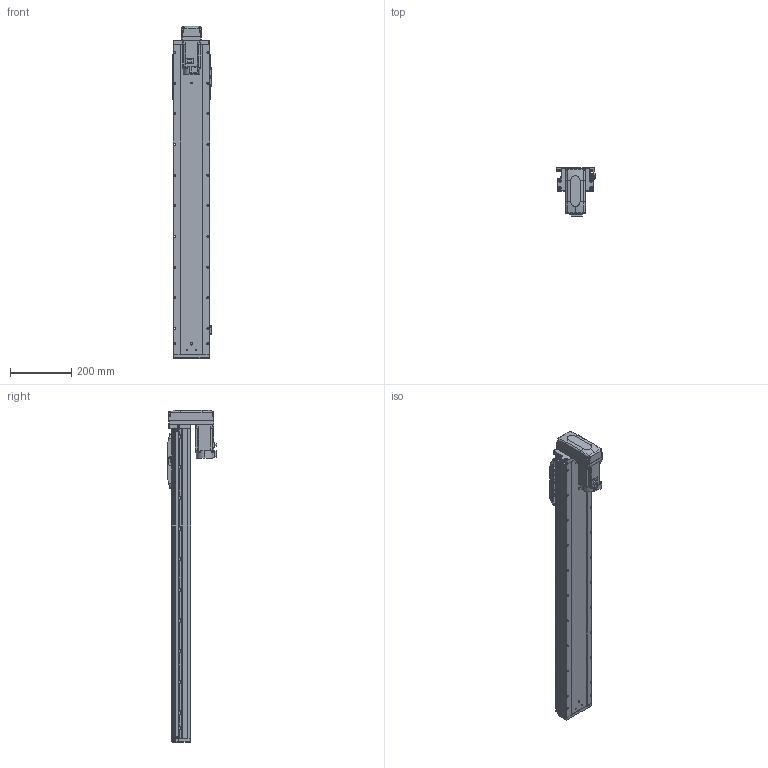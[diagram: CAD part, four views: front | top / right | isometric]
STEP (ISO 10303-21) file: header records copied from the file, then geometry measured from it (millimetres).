
FILE_DESCRIPTION (( 'STEP AP203' ), '1' );
FILE_NAME ('GTH12-800-BM-M40-C4.step', '2022-09-29T02:02:41', ( '微软用户' ), ( '微软中国' ), 'SwSTEP 2.0', 'SolidWorks 2020', '' );
FILE_SCHEMA (( 'CONFIG_CONTROL_DESIGN' ));
Length unit declared in the file: millimetre
Products named in the file (18): hg-kn43j_-s100_; GTH120-003; GTH80-022; CTHA86-033_M40B; GTH120-006; GTH80-028; GTH120-027-1_GTH120-027-2; GTH120-004; GTH50-023; GTH12-800-BM-M40-C4; GTH120-013; GTH50-024; GBT 70.1-M3℅6; GBT96.1-2002 3×0.8; GBT 70.1-M5×16; BTH-M3X5X6; GTH120-001_800; GBT 70.3-M3℅8
Assembly tree (59 placements, depth 2):
  GTH12-800-BM-M40-C4
    GTH120-001_800
    GTH120-003
    GTH120-006
    GTH120-004
    GTH120-013
    GBT 70.1-M3℅6  x14
    GBT 70.1-M5×16  x10
    GBT 70.3-M3℅8  x4
    GTH80-022
    GTH80-028  x2
    GTH50-023  x3
    GTH50-024  x3
    GBT96.1-2002 3×0.8  x6
    BTH-M3X5X6  x8
    hg-kn43j_-s100_
    CTHA86-033_M40B
    GTH120-027-1_GTH120-027-2
Bounding box: 125.7 x 159.8 x 1082 mm (x, y, z)
Volume: 7838642 mm3; surface area: 693899.4 mm2
Topology: 61 solids, 61 shells, 2497 faces, 5838 edges, 3583 vertices
Faces by surface type: plane 1278, cylinder 731, cone 300, torus 174, sphere 8, bspline 6
Entity records: 47292 total; most frequent: CARTESIAN_POINT 8048, DIRECTION 7842, ORIENTED_EDGE 7286, EDGE_CURVE 3643, AXIS2_PLACEMENT_3D 2742, LINE 2358, VECTOR 2358, VERTEX_POINT 2304
